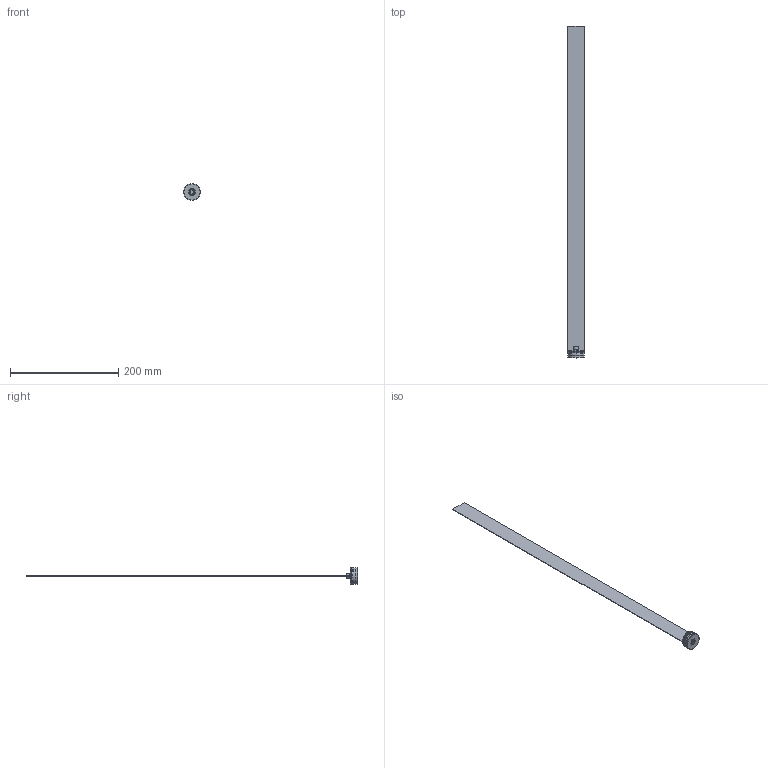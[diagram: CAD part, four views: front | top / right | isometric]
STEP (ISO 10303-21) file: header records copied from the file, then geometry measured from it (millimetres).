
FILE_DESCRIPTION (( 'STEP AP203' ), '1' );
FILE_NAME ('RL30x600F.STEP', '2015-12-04T10:22:54', ( 'Balzi' ), ( '' ), 'SwSTEP 2.0', 'SolidWorks 2015', '' );
FILE_SCHEMA (( 'CONFIG_CONTROL_DESIGN' ));
Length unit declared in the file: millimetre
Products named in the file (1): RL30x600F
Bounding box: 31.4 x 614 x 31.4 mm (x, y, z)
Volume: 27835.7 mm3; surface area: 40627.2 mm2
Topology: 1 solids, 1 shells, 75 faces, 177 edges, 109 vertices
Faces by surface type: plane 31, cone 19, cylinder 17, torus 8
Entity records: 2245 total; most frequent: CARTESIAN_POINT 412, DIRECTION 386, ORIENTED_EDGE 354, EDGE_CURVE 177, AXIS2_PLACEMENT_3D 147, VERTEX_POINT 109, LINE 92, VECTOR 92
